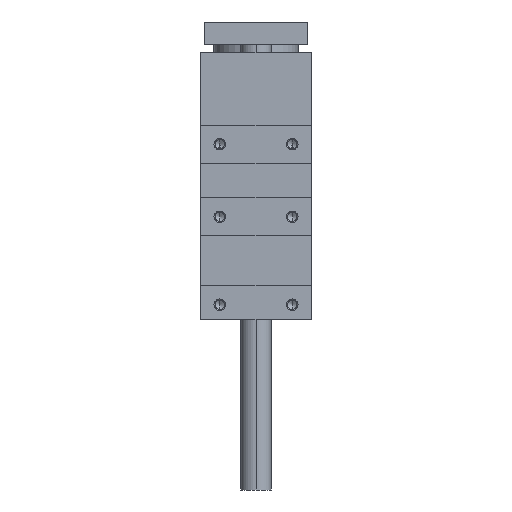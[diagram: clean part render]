
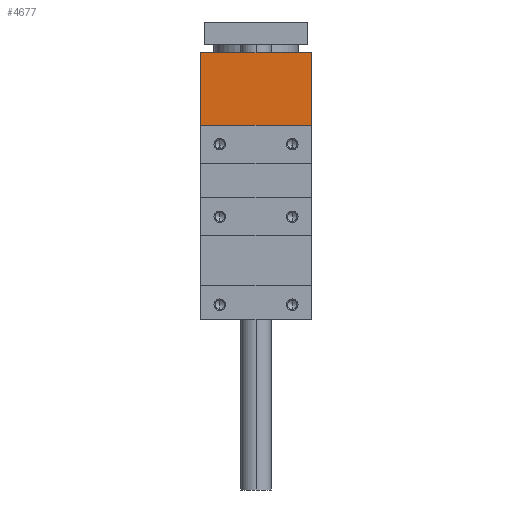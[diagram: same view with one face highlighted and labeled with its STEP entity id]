
A CAD part, left-side view. The second image highlights one B-rep face of the part: STEP entity #4677.
In plain terms, the highlighted planar face has unit normal (-1, 0, 0).
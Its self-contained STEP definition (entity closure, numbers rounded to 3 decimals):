
#111 = CARTESIAN_POINT ( 'NONE',  ( -57.2, -29., 0. ) ) ;
#215 = ORIENTED_EDGE ( 'NONE', *, *, #8454, .F. ) ;
#297 = VERTEX_POINT ( 'NONE', #4660 ) ;
#638 = VERTEX_POINT ( 'NONE', #5112 ) ;
#862 = DIRECTION ( 'NONE',  ( 0., -1., 0. ) ) ;
#1053 = VERTEX_POINT ( 'NONE', #3299 ) ;
#1393 = DIRECTION ( 'NONE',  ( 1., 0., 0. ) ) ;
#1556 = EDGE_CURVE ( 'NONE', #1053, #638, #9458, .T. ) ;
#1870 = DIRECTION ( 'NONE',  ( 0., 0., -1. ) ) ;
#2222 = DIRECTION ( 'NONE',  ( 0., 1., 0. ) ) ;
#3095 = ORIENTED_EDGE ( 'NONE', *, *, #8743, .F. ) ;
#3109 = CARTESIAN_POINT ( 'NONE',  ( -57.2, -29., 59. ) ) ;
#3295 = CARTESIAN_POINT ( 'NONE',  ( -57.2, 58., 59. ) ) ;
#3299 = CARTESIAN_POINT ( 'NONE',  ( -57.2, 29., 59. ) ) ;
#3633 = EDGE_CURVE ( 'NONE', #638, #297, #3917, .T. ) ;
#3679 = CARTESIAN_POINT ( 'NONE',  ( -57.2, 58., 21. ) ) ;
#3917 = LINE ( 'NONE', #9231, #6921 ) ;
#4418 = VERTEX_POINT ( 'NONE', #3109 ) ;
#4643 = VECTOR ( 'NONE', #862, 1000. ) ;
#4660 = CARTESIAN_POINT ( 'NONE',  ( -57.2, -29., 21. ) ) ;
#4677 = ADVANCED_FACE ( 'NONE', ( #5231 ), #6898, .F. ) ;
#4721 = DIRECTION ( 'NONE',  ( 0., 0., -1. ) ) ;
#5112 = CARTESIAN_POINT ( 'NONE',  ( -57.2, 29., 21. ) ) ;
#5231 = FACE_OUTER_BOUND ( 'NONE', #9643, .T. ) ;
#5241 = LINE ( 'NONE', #3295, #4643 ) ;
#5326 = DIRECTION ( 'NONE',  ( 0., -1., 0. ) ) ;
#5812 = LINE ( 'NONE', #111, #8796 ) ;
#6253 = ORIENTED_EDGE ( 'NONE', *, *, #1556, .T. ) ;
#6898 = PLANE ( 'NONE',  #7530 ) ;
#6921 = VECTOR ( 'NONE', #5326, 1000. ) ;
#7530 = AXIS2_PLACEMENT_3D ( 'NONE', #3679, #1393, #2222 ) ;
#8454 = EDGE_CURVE ( 'NONE', #4418, #297, #5812, .T. ) ;
#8681 = CARTESIAN_POINT ( 'NONE',  ( -57.2, 29., 0. ) ) ;
#8743 = EDGE_CURVE ( 'NONE', #1053, #4418, #5241, .T. ) ;
#8796 = VECTOR ( 'NONE', #1870, 1000. ) ;
#9044 = VECTOR ( 'NONE', #4721, 1000. ) ;
#9231 = CARTESIAN_POINT ( 'NONE',  ( -57.2, 58., 21. ) ) ;
#9458 = LINE ( 'NONE', #8681, #9044 ) ;
#9643 = EDGE_LOOP ( 'NONE', ( #6253, #9922, #215, #3095 ) ) ;
#9922 = ORIENTED_EDGE ( 'NONE', *, *, #3633, .T. ) ;
